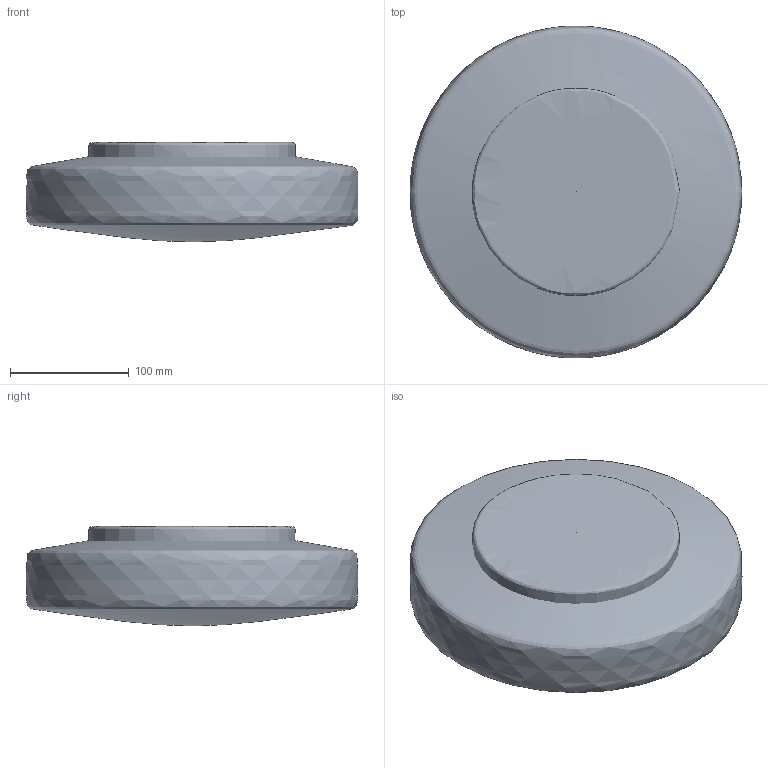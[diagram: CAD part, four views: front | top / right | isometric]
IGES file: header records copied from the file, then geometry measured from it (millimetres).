
Global section: file name: C:\Users\EQUIPO\Desktop\COLECCIONES ACB MODELADAS 3D OK\MOON\moon-969-28 (IGES).igs; native system: Rhinoceros ( Oct  8 2013 ); preprocessor: Trout Lake IGES 012 Oct  8 2013; date: 190207.111525; units: millimetre
Bounding box: 280 x 280 x 83.68 mm (x, y, z)
Surface area: 194919.7 mm2 (no closed solid volume)
Topology: 0 solids, 0 shells, 2 faces, 13 edges, 13 vertices
Faces by surface type: bspline 2
